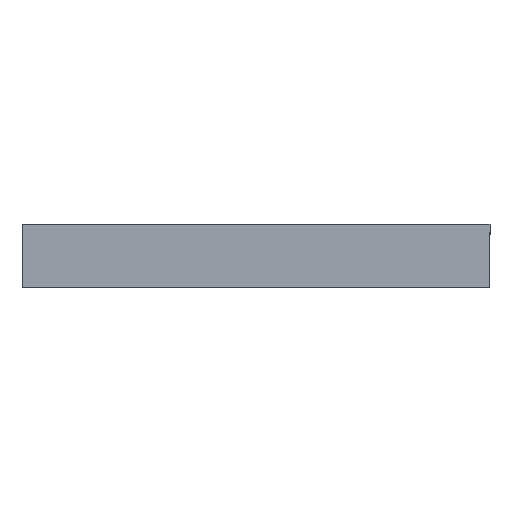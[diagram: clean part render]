
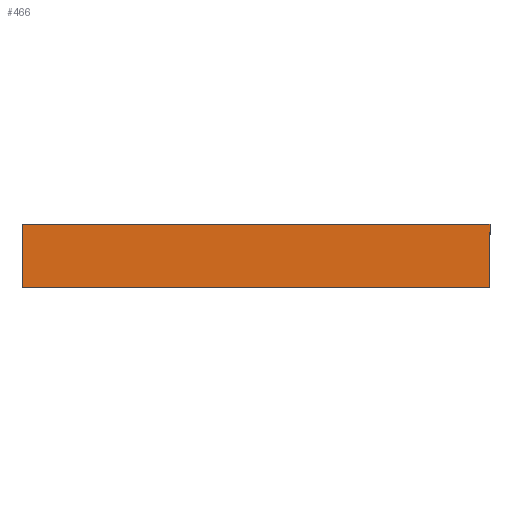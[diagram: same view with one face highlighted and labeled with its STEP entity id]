
A CAD part, left-side view. The second image highlights one B-rep face of the part: STEP entity #466.
In plain terms, the highlighted planar face has unit normal (-1, 0, 0).
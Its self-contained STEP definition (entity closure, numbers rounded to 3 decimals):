
#34 = EDGE_CURVE ( 'NONE', #780, #714, #297, .T. ) ;
#42 = AXIS2_PLACEMENT_3D ( 'NONE', #573, #565, #564 ) ;
#73 = EDGE_CURVE ( 'NONE', #788, #717, #241, .T. ) ;
#96 = EDGE_CURVE ( 'NONE', #714, #717, #203, .T. ) ;
#113 = EDGE_CURVE ( 'NONE', #780, #788, #172, .T. ) ;
#156 = FACE_OUTER_BOUND ( 'NONE', #356, .T. ) ;
#171 = VECTOR ( 'NONE', #633, 1000. ) ;
#172 = LINE ( 'NONE', #634, #171 ) ;
#202 = VECTOR ( 'NONE', #681, 1000. ) ;
#203 = LINE ( 'NONE', #682, #202 ) ;
#240 = VECTOR ( 'NONE', #739, 1000. ) ;
#241 = LINE ( 'NONE', #740, #240 ) ;
#287 = VECTOR ( 'NONE', #803, 1000. ) ;
#297 = LINE ( 'NONE', #807, #287 ) ;
#356 = EDGE_LOOP ( 'NONE', ( #433, #434, #435, #436 ) ) ;
#433 = ORIENTED_EDGE ( 'NONE', *, *, #73, .T. ) ;
#434 = ORIENTED_EDGE ( 'NONE', *, *, #96, .F. ) ;
#435 = ORIENTED_EDGE ( 'NONE', *, *, #34, .F. ) ;
#436 = ORIENTED_EDGE ( 'NONE', *, *, #113, .T. ) ;
#466 = ADVANCED_FACE ( 'NONE', ( #156 ), #578, .F. ) ;
#510 = CARTESIAN_POINT ( 'NONE',  ( -254., 479., 0. ) ) ;
#514 = CARTESIAN_POINT ( 'NONE',  ( -254., 479., 65. ) ) ;
#534 = CARTESIAN_POINT ( 'NONE',  ( -254., 0., 0. ) ) ;
#535 = CARTESIAN_POINT ( 'NONE',  ( -254., 0., 65. ) ) ;
#564 = DIRECTION ( 'NONE',  ( 0., 1., 0. ) ) ;
#565 = DIRECTION ( 'NONE',  ( 1., 0., 0. ) ) ;
#573 = CARTESIAN_POINT ( 'NONE',  ( -254., 0., 65. ) ) ;
#578 = PLANE ( 'NONE',  #42 ) ;
#633 = DIRECTION ( 'NONE',  ( 0., 0., -1. ) ) ;
#634 = CARTESIAN_POINT ( 'NONE',  ( -254., 479., 65. ) ) ;
#681 = DIRECTION ( 'NONE',  ( 0., 0., -1. ) ) ;
#682 = CARTESIAN_POINT ( 'NONE',  ( -254., 0., 65. ) ) ;
#714 = VERTEX_POINT ( 'NONE', #535 ) ;
#717 = VERTEX_POINT ( 'NONE', #534 ) ;
#739 = DIRECTION ( 'NONE',  ( 0., -1., 0. ) ) ;
#740 = CARTESIAN_POINT ( 'NONE',  ( -254., 0., 0. ) ) ;
#780 = VERTEX_POINT ( 'NONE', #514 ) ;
#788 = VERTEX_POINT ( 'NONE', #510 ) ;
#803 = DIRECTION ( 'NONE',  ( 0., -1., 0. ) ) ;
#807 = CARTESIAN_POINT ( 'NONE',  ( -254., 0., 65. ) ) ;
